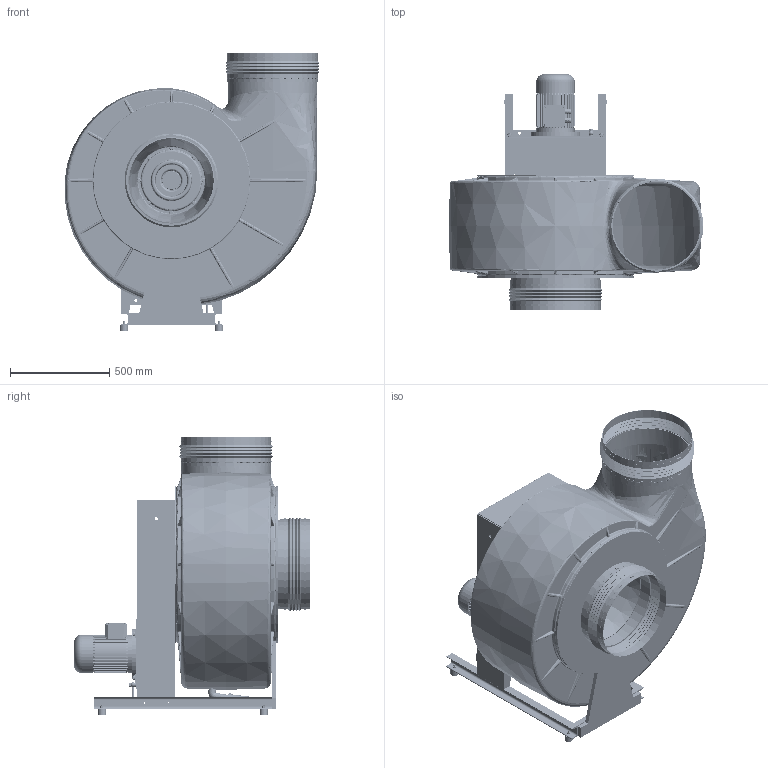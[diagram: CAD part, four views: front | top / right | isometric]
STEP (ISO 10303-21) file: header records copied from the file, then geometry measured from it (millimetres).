
FILE_DESCRIPTION( ( 'Unknown' ), '1' );
FILE_NAME( 'K:/HOME/HLT_CAD/Z/HF/3D/Zusammenstellung/HFR/HFR 15_17/HFR...-15RF/DS_1/HFR_450-15RF/GR360/HFR_450-15RF_DS1_GR_360_100.stp', 'Unknown', ( 'Unknown' ), ( 'Unknown' ), 'PSStep 14.0', 'Unknown', ' ' );
FILE_SCHEMA( ( 'AUTOMOTIVE_DESIGN { 1 0 10303 214 1 1 1 1 }' ) );
Length unit declared in the file: millimetre
Products named in the file (55): 5003_Man 450; 5003_Manschettenband_Ø450; 5003_4_Schelle_Ø450; 5141_Gestell; C-Channel 65x42-oa3; C-Channel 65x42-oa4; Angle 60x30x5_links-oa5; Angle 40x40x4-oa6; Angle 40x40x4-oa7; Nut_DIN_934_M12_v7.00; Washer_DIN_128_A_14_v7.00; Screw_DIN_EN_24017_M12x35_v7.00; Washer_DIN_125_1_A_13_v7.00; Bolt_DIN_444_A_M12x90_v7.00; Washer_DIN_128_A_12_v7.00; Screw_DIN_EN_24017_M12x45_v7.00; 5141_Gehäuseplatte; 5141_Gestellstrebe-oa8; 5141_Gestellstrebe-oa9; 5141_Klemmstein; 5141_Motorplatte; Washer_DIN_128_A_14_v7.00_mir; 5159_Kondensatablauf_355-500; Stopfen_G1-oa2; Rohr_Ø32; Verschlusskappe_Ø31,8; Schelle; 721100108-Winkel_90°-DN25_d=32; Schlauch_Ø32; HFR 450_GR; Ensat-Buchse-M8; Gehäuse 450_GR_Abgeschn; 5218_Abdeckkappe; 5218_Drehteil; 5218_Flachdichtung_Ø90; 5218_Flachdichtung_Ø32; 5218_Schraubkappe; 5155_Gehäusedeckel; GD_FL 450; ÜGD450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
Assembly tree (148 placements, depth 3):
  Assem1
    SPA-oa0
    SPA-oa1
    299T30W_715564
    6kant_M8  x4
    1610_28  x3
    2xSPA_125
    6611_Motorring_Bg100+112
    2xSPA_100
    5484_Riemenschutz_450
    Schwidä_40x30  x4
    5200_Stützplatte_HFR450_45°-135°_DS1
    B5_100a_2HIHI
    HFR 450_GR
      Ensat-Buchse-M8  x72
      Gehäuse 450_GR_Abgeschn
    5155_Gehäusedeckel
      GD_FL 450
      ÜGD450
      5155_Rohr450
      5155_Rohr355
    5159_Kondensatablauf_355-500
      Stopfen_G1-oa2
      Rohr_Ø32  x2
      Verschlusskappe_Ø31,8
      Schelle  x2
      721100108-Winkel_90°-DN25_d=32
      Schlauch_Ø32
    5141_Gestell
      C-Channel 65x42-oa3
      C-Channel 65x42-oa4
      Angle 60x30x5_links-oa5
      Angle 40x40x4-oa6
      Angle 40x40x4-oa7
      Nut_DIN_934_M12_v7.00  x3
      Washer_DIN_128_A_14_v7.00  x2
      Screw_DIN_EN_24017_M12x35_v7.00  x4
      Washer_DIN_125_1_A_13_v7.00  x2
      Bolt_DIN_444_A_M12x90_v7.00
      Washer_DIN_128_A_12_v7.00
      Screw_DIN_EN_24017_M12x45_v7.00
      5141_Gehäuseplatte
      5141_Gestellstrebe-oa8
      5141_Gestellstrebe-oa9
      5141_Klemmstein  x4
      5141_Motorplatte
      Washer_DIN_128_A_14_v7.00_mir  x2
    5003_Man 450  x2
      5003_Manschettenband_Ø450
      5003_4_Schelle_Ø450
    5218_Abdeckkappe
      5218_Drehteil
      5218_Flachdichtung_Ø90
      5218_Flachdichtung_Ø32
      5218_Schraubkappe
Bounding box: 1282.56 x 1186 x 1403 mm (x, y, z)
Volume: 44710540.1 mm3; surface area: 15281127.3 mm2
Topology: 144 solids, 144 shells, 4004 faces, 8235 edges, 5189 vertices
Faces by surface type: plane 1804, cylinder 1370, bspline 328, torus 245, cone 198, sphere 49, offset 10
Full cylindrical faces by diameter (mm): 6.647 x80, 7 x4, 8 x14, 8.376 x1, 9 x2, 9.5 x6, 9.853 x6, 10 x4, 10.106 x3, 11 x4, 12 x301, 12.5 x1, 13 x298, 14 x20, 14.5 x4, 15 x16, 16 x12, 16.63 x5, 17 x66, 20 x1, 22 x1, 23 x1, 24 x6, 25 x1, 25.6 x2, 28 x3, 28.4 x2, 30.291 x1, 31 x1, 31.8 x1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
Entity records: 171243 total; most frequent: CARTESIAN_POINT 83054, DIRECTION 13359, ORIENTED_EDGE 11234, AXIS2_PLACEMENT_3D 5661, EDGE_CURVE 5617, EDGE_LOOP 4478, VERTEX_POINT 3904, FACE_OUTER_BOUND 3751
